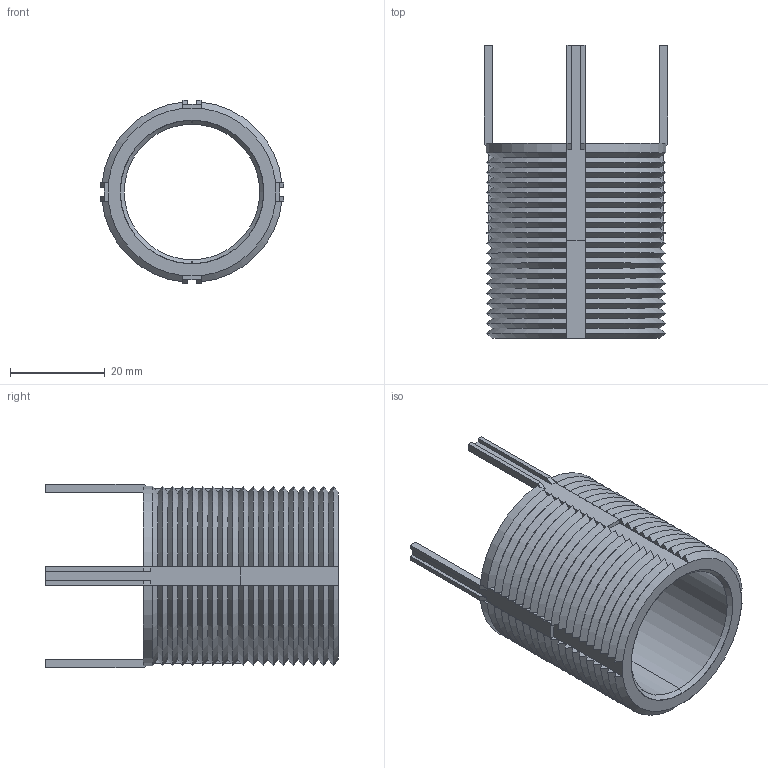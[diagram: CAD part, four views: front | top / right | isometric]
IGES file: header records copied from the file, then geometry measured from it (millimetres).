
Start section: SolidWorks IGES file using analytic representation for surfaces
Global section: file name: C:\Users\IanO\Desktop\TR1575\TR1575_v2_20230420_IGES\TR1575.65913.igs; native system: SolidWorks 2019; preprocessor: SolidWorks 2019; author: IanO; date: 230420.093249; units: inch
Bounding box: 38.64 x 61.72 x 38.64 mm (x, y, z)
Surface area: 13634.6 mm2 (no closed solid volume)
Topology: 0 solids, 0 shells, 364 faces, 1704 edges, 1704 vertices
Faces by surface type: bspline 206, revolution 158
